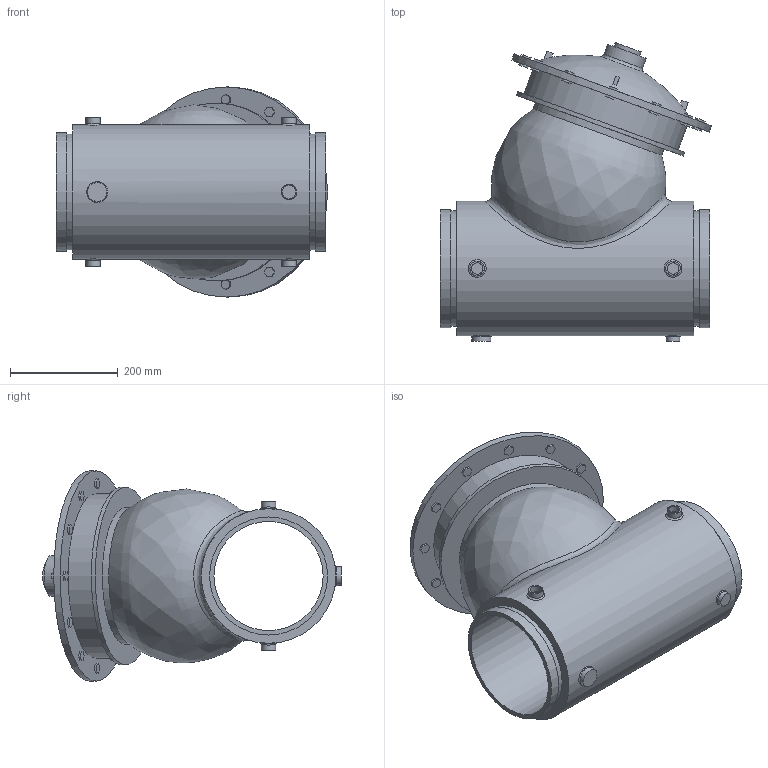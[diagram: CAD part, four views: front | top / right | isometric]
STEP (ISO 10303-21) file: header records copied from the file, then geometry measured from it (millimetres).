
FILE_DESCRIPTION(/* description */ ('VIC FP VALVE PRESSURE RELIEF SERIES 867-7UF (OGS)','CAx-IF Rec.Pracs.---Representation and Presentation of Product Manufacturing Information (PMI)---4.0---2014-10-13'),/* implementation_level */ '2;1');
FILE_NAME(/* name */ 'C:\Series 867-7UF\New folder (2)\step\Victaulic_FP-Bermad_Valve Pressure Relief_Series 867-7UF (OGS)\Victaulic_FP-Bermad_Valve Pressure Relief_Series 867-7UF (OGS)_8 (200).stp',/* time_stamp */ '2021-09-02T12:11:19+06:00',/* author */ ('kkamble'),/* organization */ ('Victaulic'),/* preprocessor_version */ 'ST-DEVELOPER v17.2',/* originating_system */ 'Autodesk Inventor 2019',/* authorisation */ '');
FILE_SCHEMA (('AP242_MANAGED_MODEL_BASED_3D_ENGINEERING_MIM_LF { 1 0 10303 442 1 1 4 }'));
Length unit declared in the file: inch
Products named in the file (1): 867-7UF-08.0
Bounding box: 503.43 x 554.59 x 390.14 mm (x, y, z)
Volume: 28091180.6 mm3; surface area: 1353254.4 mm2
Topology: 6 solids, 6 shells, 248 faces, 611 edges, 415 vertices
Faces by surface type: plane 210, cylinder 28, bspline 9, torus 1
Full cylindrical faces by diameter (mm): 21.336 x4, 25.4 x1, 26.873 x4, 35.56 x1, 50.8 x1, 76.2 x1, 202.717 x1, 214.401 x2, 219.075 x2, 249.936 x1, 254 x1, 304.8 x1, 330.2 x1, 390.144 x1
Entity records: 8805 total; most frequent: CARTESIAN_POINT 2561, ORIENTED_EDGE 1234, DIRECTION 1143, EDGE_CURVE 617, LINE 495, VECTOR 495, VERTEX_POINT 421, AXIS2_PLACEMENT_3D 324
